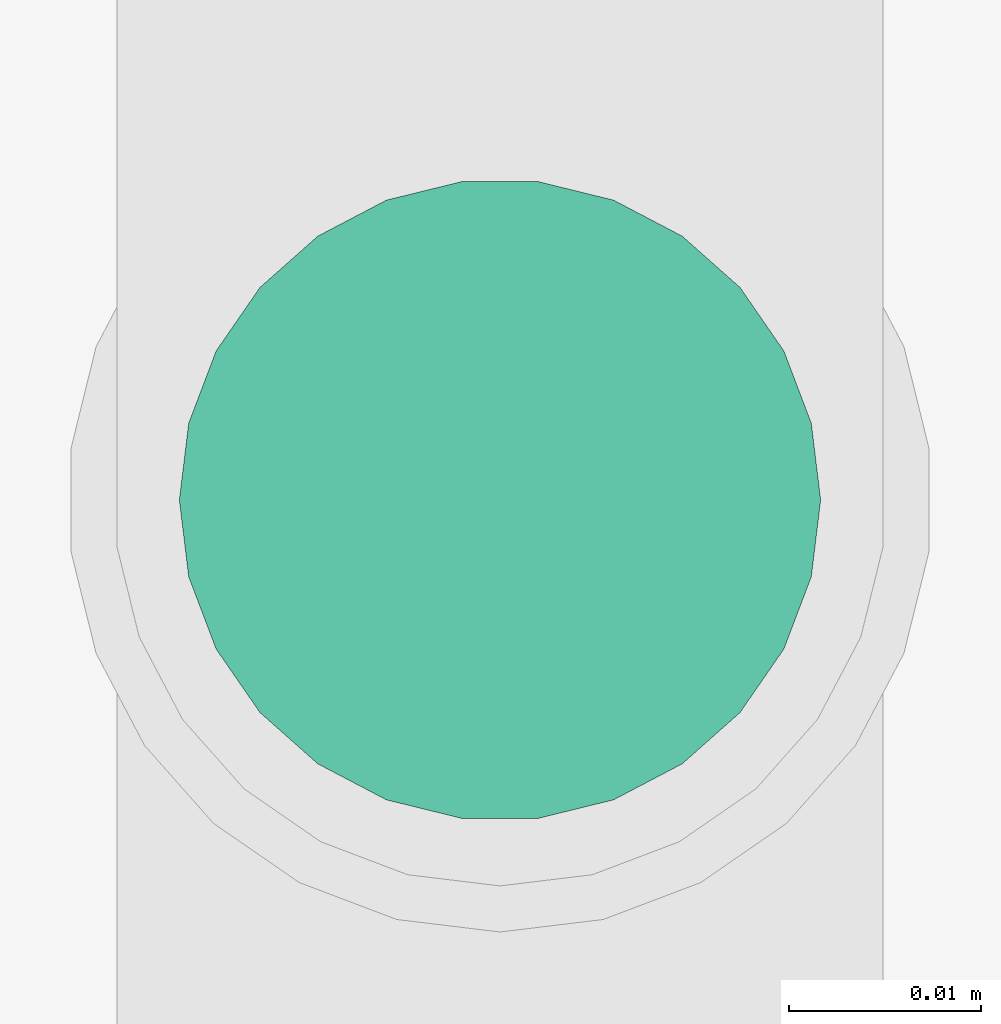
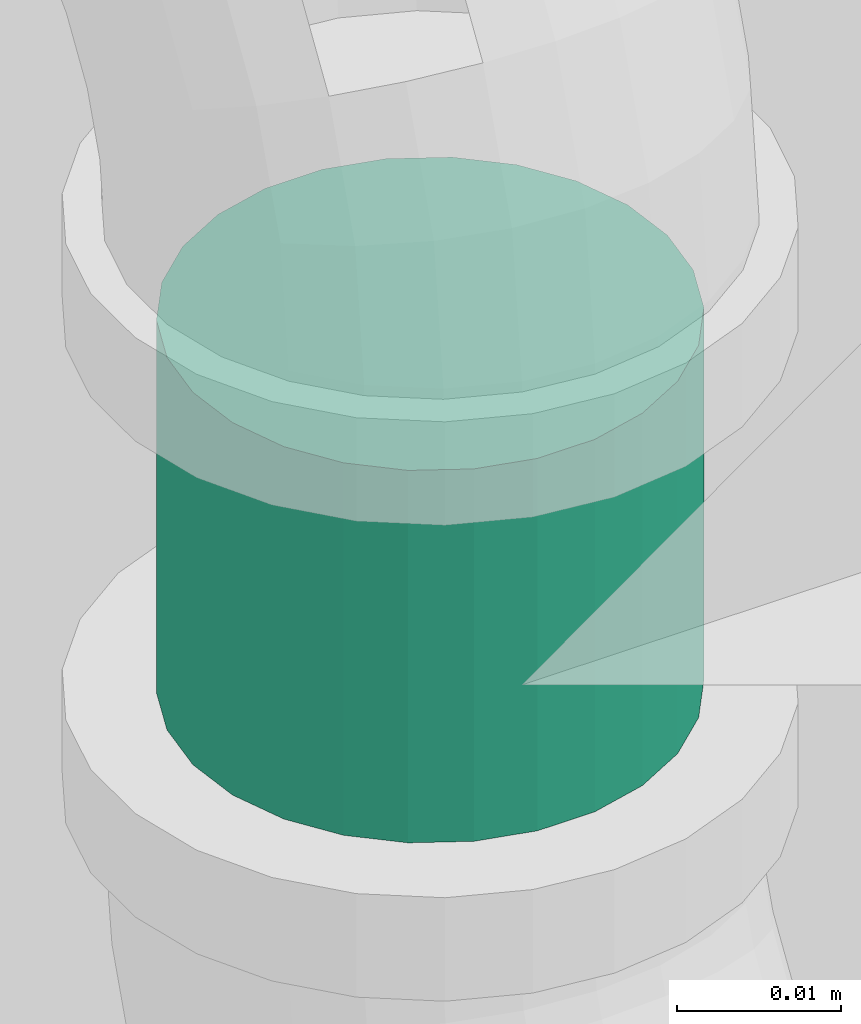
# One storey, part 93 of 108: 1 pipe segment.
"""IFC4 building model written with IfcOpenShell, lengths in feet."""

from ifc_helpers import new_model, entity, si_unit, converted_unit, derived_unit, direction, frame, origin, origin_2d_with_axis, place, context, subcontext, project, spatial, circle, extrude, type_object, element, save


model = new_model("IFC4")

# Units and contexts
model_context = context("Model", 3, precision=0.0001, world=origin(), true_north=direction((6.12303176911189e-17, 1.0)))
body_context = subcontext(model_context, "Body", "Model", "MODEL_VIEW")
ifc_project = project(units=[converted_unit("LENGTHUNIT", "FOOT", entity("IfcRatioMeasure", 0.3048), si_unit("LENGTHUNIT", "METRE"), dimensions=[1, 0, 0, 0, 0, 0, 0]), converted_unit("AREAUNIT", "SQUARE FOOT", entity("IfcRatioMeasure", 0.09290304), si_unit("AREAUNIT", "SQUARE_METRE"), dimensions=[2, 0, 0, 0, 0, 0, 0]), converted_unit("VOLUMEUNIT", "CUBIC FOOT", entity("IfcRatioMeasure", 0.028316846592), si_unit("VOLUMEUNIT", "CUBIC_METRE"), dimensions=[3, 0, 0, 0, 0, 0, 0]), converted_unit("PLANEANGLEUNIT", "DEGREE", entity("IfcRatioMeasure", 0.0174532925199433), si_unit("PLANEANGLEUNIT", "RADIAN"), dimensions=[0, 0, 0, 0, 0, 0, 0]), si_unit("MASSUNIT", "GRAM", prefix="KILO"), derived_unit("MASSDENSITYUNIT", [(si_unit("MASSUNIT", "GRAM", prefix="KILO"), 1), (si_unit("LENGTHUNIT", "METRE"), -3)]), si_unit("TIMEUNIT", "SECOND"), si_unit("FREQUENCYUNIT", "HERTZ"), si_unit("THERMODYNAMICTEMPERATUREUNIT", "DEGREE_CELSIUS"), derived_unit("THERMALTRANSMITTANCEUNIT", [(si_unit("MASSUNIT", "GRAM", prefix="KILO"), 1), (si_unit("THERMODYNAMICTEMPERATUREUNIT", "KELVIN"), -1), (si_unit("TIMEUNIT", "SECOND"), -3)]), derived_unit("VOLUMETRICFLOWRATEUNIT", [(si_unit("LENGTHUNIT", "METRE"), 3), (si_unit("TIMEUNIT", "SECOND"), -1)]), si_unit("ELECTRICCURRENTUNIT", "AMPERE"), si_unit("ELECTRICVOLTAGEUNIT", "VOLT"), si_unit("POWERUNIT", "WATT"), si_unit("FORCEUNIT", "NEWTON"), si_unit("ILLUMINANCEUNIT", "LUX"), si_unit("LUMINOUSFLUXUNIT", "LUMEN"), si_unit("LUMINOUSINTENSITYUNIT", "CANDELA"), derived_unit("USERDEFINED", [(si_unit("MASSUNIT", "GRAM", prefix="KILO"), -1), (si_unit("LENGTHUNIT", "METRE"), -2), (si_unit("TIMEUNIT", "SECOND"), 3), (si_unit("LUMINOUSFLUXUNIT", "LUMEN"), 1)]), derived_unit("LINEARVELOCITYUNIT", [(si_unit("LENGTHUNIT", "METRE"), 1), (si_unit("TIMEUNIT", "SECOND"), -1)]), si_unit("PRESSUREUNIT", "PASCAL"), derived_unit("USERDEFINED", [(si_unit("LENGTHUNIT", "METRE"), -2), (si_unit("MASSUNIT", "GRAM", prefix="KILO"), 1), (si_unit("TIMEUNIT", "SECOND"), -2)])], contexts=[model_context])

# Site, building, storey
site_placement = place(None, origin())
site = spatial("IfcSite", under=ifc_project, at=site_placement, Name="Default", CompositionType="ELEMENT")
building_placement = place(site_placement, origin())
building = spatial("IfcBuilding", under=site, at=building_placement, CompositionType="ELEMENT")
storey_placement = place(building_placement, frame((0.0, 0.0, 168.0)))
storey = spatial("IfcBuildingStorey", under=building, at=storey_placement, Name="Level 15", CompositionType="ELEMENT", Elevation=168.0)

# Pipe segment
pipe_segment_type = type_object("IfcPipeSegmentType", Name="Pipe Types:Fire Prot Sched 10 Main", PredefinedType="NOTDEFINED")
pipe_segment_placement = place(storey_placement, frame((-50.8574057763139, 8.26639706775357, 8.78787760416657)))
element("IfcPipeSegment", 1, at=pipe_segment_placement, inside=storey, type_object=pipe_segment_type, Name="Pipe Types:Fire Prot Sched 10 Main", ObjectType="Pipe Types:Fire Prot Sched 10 Main", PredefinedType="NOTDEFINED", context=body_context, shape_type="SweptSolid", body=[
    extrude(circle(Radius=0.0547916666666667, at=origin_2d_with_axis()), frame((0.0600254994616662, 0.0600254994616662, 0.0), z_axis=(0.0, 0.0, 1.0), x_axis=(-1.0, 0.0, 0.0)), (0.0, 0.0, 1.0), 0.0909114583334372),
])

save(model, "model.ifc")
